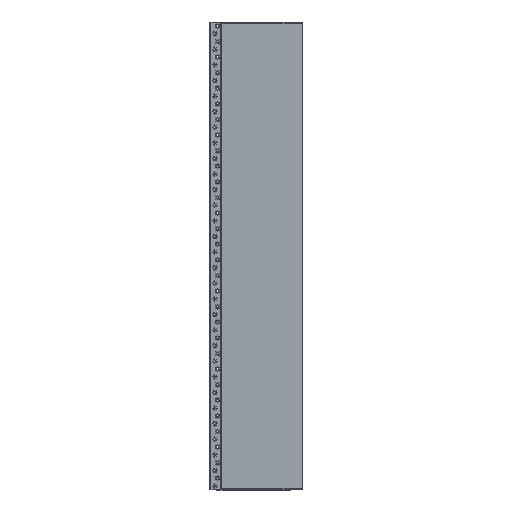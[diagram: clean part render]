
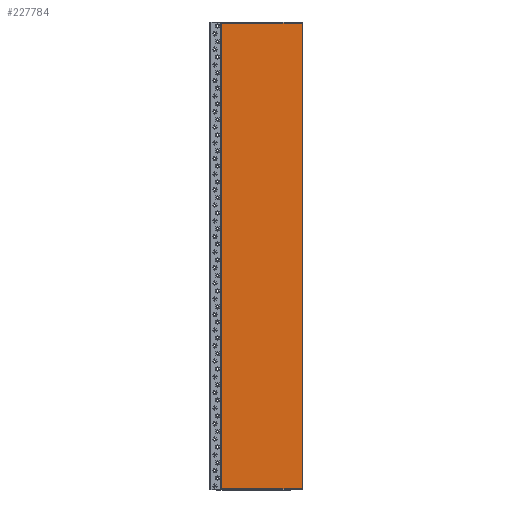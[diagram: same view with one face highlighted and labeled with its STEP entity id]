
A CAD part, top view. The second image highlights one B-rep face of the part: STEP entity #227784.
In plain terms, the highlighted planar face has unit normal (0, 0, 1).
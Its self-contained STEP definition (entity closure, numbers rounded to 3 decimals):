
#227470 = VERTEX_POINT('',#227471);
#227471 = CARTESIAN_POINT('',(20775.182,3.,
    0.));
#227478 = PLANE('',#227479);
#227479 = AXIS2_PLACEMENT_3D('',#227480,#227481,#227482);
#227480 = CARTESIAN_POINT('',(20775.182,3.,
    -25.));
#227481 = DIRECTION('',(0.,1.,0.));
#227482 = DIRECTION('',(1.,0.,0.));
#227490 = PLANE('',#227491);
#227491 = AXIS2_PLACEMENT_3D('',#227492,#227493,#227494);
#227492 = CARTESIAN_POINT('',(20775.182,1197.,
    -25.));
#227493 = DIRECTION('',(1.,0.,0.));
#227494 = DIRECTION('',(0.,-1.,0.));
#227502 = EDGE_CURVE('',#227470,#227503,#227505,.T.);
#227503 = VERTEX_POINT('',#227504);
#227504 = CARTESIAN_POINT('',(20982.682,3.,
    0.));
#227505 = SURFACE_CURVE('',#227506,(#227510,#227517),.PCURVE_S1.);
#227506 = LINE('',#227507,#227508);
#227507 = CARTESIAN_POINT('',(20775.182,3.,
    0.));
#227508 = VECTOR('',#227509,1.);
#227509 = DIRECTION('',(1.,0.,0.));
#227510 = PCURVE('',#227478,#227511);
#227511 = DEFINITIONAL_REPRESENTATION('',(#227512),#227516);
#227512 = LINE('',#227513,#227514);
#227513 = CARTESIAN_POINT('',(0.,-25.));
#227514 = VECTOR('',#227515,1.);
#227515 = DIRECTION('',(1.,0.));
#227516 = ( GEOMETRIC_REPRESENTATION_CONTEXT(2) 
PARAMETRIC_REPRESENTATION_CONTEXT() REPRESENTATION_CONTEXT('2D SPACE',''
  ) );
#227517 = PCURVE('',#227518,#227523);
#227518 = PLANE('',#227519);
#227519 = AXIS2_PLACEMENT_3D('',#227520,#227521,#227522);
#227520 = CARTESIAN_POINT('',(20878.932,600.,
    0.));
#227521 = DIRECTION('',(0.,0.,1.));
#227522 = DIRECTION('',(1.,0.,0.));
#227523 = DEFINITIONAL_REPRESENTATION('',(#227524),#227528);
#227524 = LINE('',#227525,#227526);
#227525 = CARTESIAN_POINT('',(-103.75,-597.));
#227526 = VECTOR('',#227527,1.);
#227527 = DIRECTION('',(1.,0.));
#227528 = ( GEOMETRIC_REPRESENTATION_CONTEXT(2) 
PARAMETRIC_REPRESENTATION_CONTEXT() REPRESENTATION_CONTEXT('2D SPACE',''
  ) );
#227546 = PLANE('',#227547);
#227547 = AXIS2_PLACEMENT_3D('',#227548,#227549,#227550);
#227548 = CARTESIAN_POINT('',(20982.682,3.,
    -25.));
#227549 = DIRECTION('',(-1.,0.,0.));
#227550 = DIRECTION('',(0.,1.,0.));
#227588 = EDGE_CURVE('',#227503,#227589,#227591,.T.);
#227589 = VERTEX_POINT('',#227590);
#227590 = CARTESIAN_POINT('',(20982.682,1197.,
    0.));
#227591 = SURFACE_CURVE('',#227592,(#227596,#227603),.PCURVE_S1.);
#227592 = LINE('',#227593,#227594);
#227593 = CARTESIAN_POINT('',(20982.682,3.,
    0.));
#227594 = VECTOR('',#227595,1.);
#227595 = DIRECTION('',(0.,1.,0.));
#227596 = PCURVE('',#227546,#227597);
#227597 = DEFINITIONAL_REPRESENTATION('',(#227598),#227602);
#227598 = LINE('',#227599,#227600);
#227599 = CARTESIAN_POINT('',(0.,-25.));
#227600 = VECTOR('',#227601,1.);
#227601 = DIRECTION('',(1.,0.));
#227602 = ( GEOMETRIC_REPRESENTATION_CONTEXT(2) 
PARAMETRIC_REPRESENTATION_CONTEXT() REPRESENTATION_CONTEXT('2D SPACE',''
  ) );
#227603 = PCURVE('',#227518,#227604);
#227604 = DEFINITIONAL_REPRESENTATION('',(#227605),#227609);
#227605 = LINE('',#227606,#227607);
#227606 = CARTESIAN_POINT('',(103.75,-597.));
#227607 = VECTOR('',#227608,1.);
#227608 = DIRECTION('',(0.,1.));
#227609 = ( GEOMETRIC_REPRESENTATION_CONTEXT(2) 
PARAMETRIC_REPRESENTATION_CONTEXT() REPRESENTATION_CONTEXT('2D SPACE',''
  ) );
#227627 = PLANE('',#227628);
#227628 = AXIS2_PLACEMENT_3D('',#227629,#227630,#227631);
#227629 = CARTESIAN_POINT('',(20982.682,1197.,
    -25.));
#227630 = DIRECTION('',(0.,-1.,0.));
#227631 = DIRECTION('',(-1.,0.,0.));
#227664 = EDGE_CURVE('',#227589,#227665,#227667,.T.);
#227665 = VERTEX_POINT('',#227666);
#227666 = CARTESIAN_POINT('',(20775.182,1197.,
    0.));
#227667 = SURFACE_CURVE('',#227668,(#227672,#227679),.PCURVE_S1.);
#227668 = LINE('',#227669,#227670);
#227669 = CARTESIAN_POINT('',(20982.682,1197.,
    0.));
#227670 = VECTOR('',#227671,1.);
#227671 = DIRECTION('',(-1.,0.,0.));
#227672 = PCURVE('',#227627,#227673);
#227673 = DEFINITIONAL_REPRESENTATION('',(#227674),#227678);
#227674 = LINE('',#227675,#227676);
#227675 = CARTESIAN_POINT('',(0.,-25.));
#227676 = VECTOR('',#227677,1.);
#227677 = DIRECTION('',(1.,0.));
#227678 = ( GEOMETRIC_REPRESENTATION_CONTEXT(2) 
PARAMETRIC_REPRESENTATION_CONTEXT() REPRESENTATION_CONTEXT('2D SPACE',''
  ) );
#227679 = PCURVE('',#227518,#227680);
#227680 = DEFINITIONAL_REPRESENTATION('',(#227681),#227685);
#227681 = LINE('',#227682,#227683);
#227682 = CARTESIAN_POINT('',(103.75,597.));
#227683 = VECTOR('',#227684,1.);
#227684 = DIRECTION('',(-1.,0.));
#227685 = ( GEOMETRIC_REPRESENTATION_CONTEXT(2) 
PARAMETRIC_REPRESENTATION_CONTEXT() REPRESENTATION_CONTEXT('2D SPACE',''
  ) );
#227735 = EDGE_CURVE('',#227665,#227470,#227736,.T.);
#227736 = SURFACE_CURVE('',#227737,(#227741,#227748),.PCURVE_S1.);
#227737 = LINE('',#227738,#227739);
#227738 = CARTESIAN_POINT('',(20775.182,1197.,
    0.));
#227739 = VECTOR('',#227740,1.);
#227740 = DIRECTION('',(0.,-1.,0.));
#227741 = PCURVE('',#227490,#227742);
#227742 = DEFINITIONAL_REPRESENTATION('',(#227743),#227747);
#227743 = LINE('',#227744,#227745);
#227744 = CARTESIAN_POINT('',(0.,-25.));
#227745 = VECTOR('',#227746,1.);
#227746 = DIRECTION('',(1.,0.));
#227747 = ( GEOMETRIC_REPRESENTATION_CONTEXT(2) 
PARAMETRIC_REPRESENTATION_CONTEXT() REPRESENTATION_CONTEXT('2D SPACE',''
  ) );
#227748 = PCURVE('',#227518,#227749);
#227749 = DEFINITIONAL_REPRESENTATION('',(#227750),#227754);
#227750 = LINE('',#227751,#227752);
#227751 = CARTESIAN_POINT('',(-103.75,597.));
#227752 = VECTOR('',#227753,1.);
#227753 = DIRECTION('',(0.,-1.));
#227754 = ( GEOMETRIC_REPRESENTATION_CONTEXT(2) 
PARAMETRIC_REPRESENTATION_CONTEXT() REPRESENTATION_CONTEXT('2D SPACE',''
  ) );
#227784 = ADVANCED_FACE('',(#227785),#227518,.T.);
#227785 = FACE_BOUND('',#227786,.T.);
#227786 = EDGE_LOOP('',(#227787,#227788,#227789,#227790));
#227787 = ORIENTED_EDGE('',*,*,#227502,.T.);
#227788 = ORIENTED_EDGE('',*,*,#227588,.T.);
#227789 = ORIENTED_EDGE('',*,*,#227664,.T.);
#227790 = ORIENTED_EDGE('',*,*,#227735,.T.);
